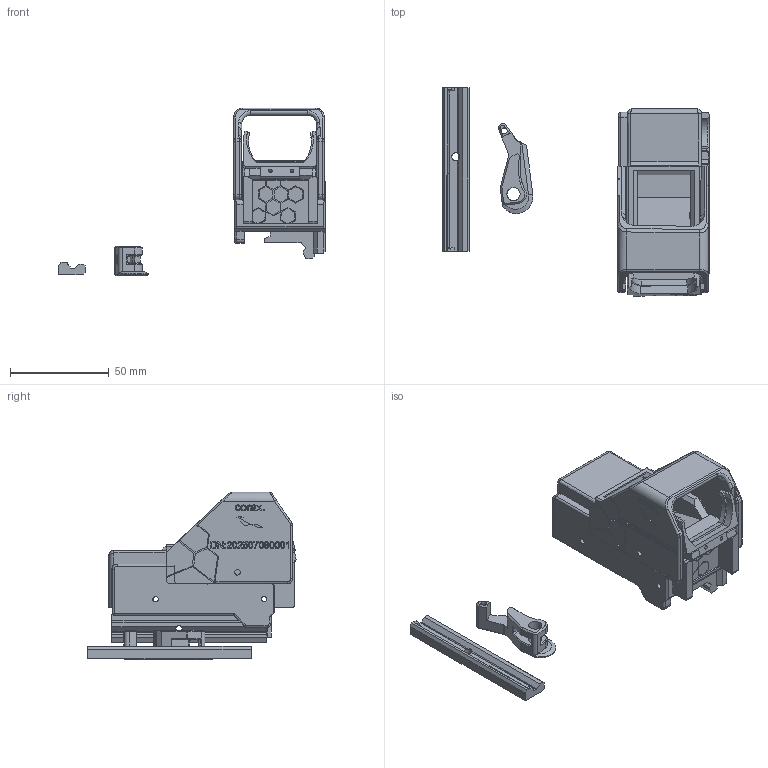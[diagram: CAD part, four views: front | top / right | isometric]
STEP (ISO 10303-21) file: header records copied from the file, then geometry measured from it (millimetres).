
FILE_DESCRIPTION(/* description */ (''),/* implementation_level */ '2;1');
FILE_NAME(/* name */ 'C:/Users/daixi/Desktop/s-n-13LL.stp',/* time_stamp */ '2025-07-16T05:39:25+08:00',/* author */ (''),/* organization */ (''),/* preprocessor_version */ 'ST-DEVELOPER v15.2',/* originating_system */ 'Autodesk Translator Framework v2.0.0.5431',/* authorisation */ '');
FILE_SCHEMA (('AUTOMOTIVE_DESIGN { 1 0 10303 214 3 1 1 }'));
Length unit declared in the file: centimetre
Products named in the file (1): s-n-13LL
Bounding box: 135.19 x 105.71 x 85 mm (x, y, z)
Volume: 106974 mm3; surface area: 59432.2 mm2
Topology: 6 solids, 7 shells, 1305 faces, 3613 edges, 2357 vertices
Faces by surface type: plane 774, bspline 342, cylinder 150, cone 27, torus 11, sphere 1
Full cylindrical faces by diameter (mm): 0.549 x1, 1.8 x3, 2.8 x15, 3 x1, 3.2 x1, 3.6 x2, 4 x1, 5.2 x1, 6 x2, 6.7 x1, 11.105 x1
Entity records: 44981 total; most frequent: CARTESIAN_POINT 13813, ORIENTED_EDGE 7142, DIRECTION 5191, EDGE_CURVE 3566, LINE 2475, VECTOR 2475, VERTEX_POINT 2344, EDGE_LOOP 1439
